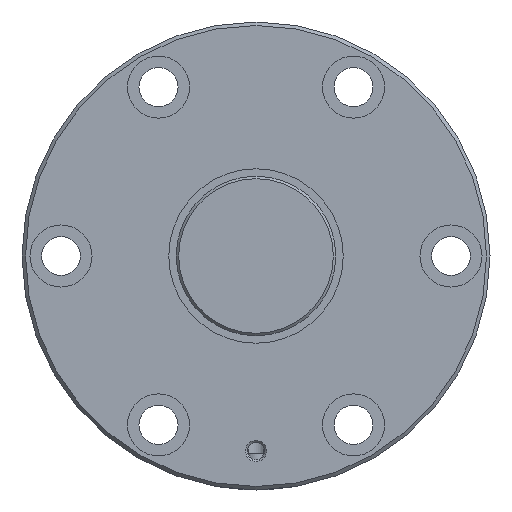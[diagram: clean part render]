
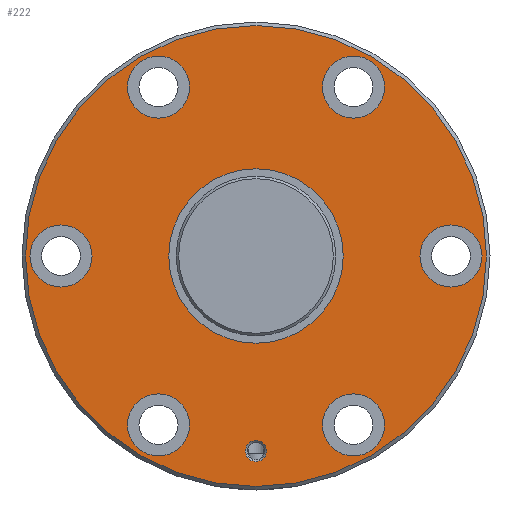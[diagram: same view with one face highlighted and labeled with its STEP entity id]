
A CAD part, left-side view. The second image highlights one B-rep face of the part: STEP entity #222.
In plain terms, the highlighted planar face has unit normal (-1, 0, 0).
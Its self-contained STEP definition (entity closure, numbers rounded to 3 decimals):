
#222 = ADVANCED_FACE( '', ( #386, #387, #388, #389, #390, #391, #392, #393, #394 ), #395, .T. );
#386 = FACE_BOUND( '', #613, .T. );
#387 = FACE_BOUND( '', #614, .T. );
#388 = FACE_BOUND( '', #615, .T. );
#389 = FACE_BOUND( '', #616, .T. );
#390 = FACE_BOUND( '', #617, .T. );
#391 = FACE_BOUND( '', #618, .T. );
#392 = FACE_BOUND( '', #619, .T. );
#393 = FACE_BOUND( '', #620, .T. );
#394 = FACE_OUTER_BOUND( '', #621, .T. );
#395 = PLANE( '', #622 );
#613 = EDGE_LOOP( '', ( #1086 ) );
#614 = EDGE_LOOP( '', ( #1087 ) );
#615 = EDGE_LOOP( '', ( #1088 ) );
#616 = EDGE_LOOP( '', ( #1089 ) );
#617 = EDGE_LOOP( '', ( #1090 ) );
#618 = EDGE_LOOP( '', ( #1091 ) );
#619 = EDGE_LOOP( '', ( #1092 ) );
#620 = EDGE_LOOP( '', ( #1093 ) );
#621 = EDGE_LOOP( '', ( #1094 ) );
#622 = AXIS2_PLACEMENT_3D( '', #1095, #1096, #1097 );
#1086 = ORIENTED_EDGE( '', *, *, #1366, .T. );
#1087 = ORIENTED_EDGE( '', *, *, #1367, .T. );
#1088 = ORIENTED_EDGE( '', *, *, #1273, .T. );
#1089 = ORIENTED_EDGE( '', *, *, #1365, .T. );
#1090 = ORIENTED_EDGE( '', *, *, #1368, .T. );
#1091 = ORIENTED_EDGE( '', *, *, #1369, .T. );
#1092 = ORIENTED_EDGE( '', *, *, #1370, .T. );
#1093 = ORIENTED_EDGE( '', *, *, #1371, .T. );
#1094 = ORIENTED_EDGE( '', *, *, #1372, .F. );
#1095 = CARTESIAN_POINT( '', ( 0., 65., 0. ) );
#1096 = DIRECTION( '', ( -1., 0., 0. ) );
#1097 = DIRECTION( '', ( 0., 0., 1. ) );
#1273 = EDGE_CURVE( '', #1443, #1443, #1444, .T. );
#1365 = EDGE_CURVE( '', #1601, #1601, #1602, .T. );
#1366 = EDGE_CURVE( '', #1603, #1603, #1604, .T. );
#1367 = EDGE_CURVE( '', #1605, #1605, #1606, .F. );
#1368 = EDGE_CURVE( '', #1607, #1607, #1608, .T. );
#1369 = EDGE_CURVE( '', #1609, #1609, #1610, .T. );
#1370 = EDGE_CURVE( '', #1611, #1611, #1612, .T. );
#1371 = EDGE_CURVE( '', #1613, #1613, #1614, .T. );
#1372 = EDGE_CURVE( '', #1615, #1615, #1616, .T. );
#1443 = VERTEX_POINT( '', #1830 );
#1444 = CIRCLE( '', #1831, 3. );
#1601 = VERTEX_POINT( '', #2508 );
#1602 = CIRCLE( '', #2509, 8.75 );
#1603 = VERTEX_POINT( '', #2510 );
#1604 = CIRCLE( '', #2511, 24.6 );
#1605 = VERTEX_POINT( '', #2512 );
#1606 = CIRCLE( '', #2513, 8.75 );
#1607 = VERTEX_POINT( '', #2514 );
#1608 = CIRCLE( '', #2515, 8.75 );
#1609 = VERTEX_POINT( '', #2516 );
#1610 = CIRCLE( '', #2517, 8.75 );
#1611 = VERTEX_POINT( '', #2518 );
#1612 = CIRCLE( '', #2519, 8.75 );
#1613 = VERTEX_POINT( '', #2520 );
#1614 = CIRCLE( '', #2521, 8.75 );
#1615 = VERTEX_POINT( '', #2522 );
#1616 = CIRCLE( '', #2523, 65. );
#1830 = CARTESIAN_POINT( '', ( 0., 0., -58. ) );
#1831 = AXIS2_PLACEMENT_3D( '', #2685, #2686, #2687 );
#2508 = CARTESIAN_POINT( '', ( 0., 27.5, 38.881 ) );
#2509 = AXIS2_PLACEMENT_3D( '', #2841, #2842, #2843 );
#2510 = CARTESIAN_POINT( '', ( 0., 0., -24.6 ) );
#2511 = AXIS2_PLACEMENT_3D( '', #2844, #2845, #2846 );
#2512 = CARTESIAN_POINT( '', ( 0., 55., 8.75 ) );
#2513 = AXIS2_PLACEMENT_3D( '', #2847, #2848, #2849 );
#2514 = CARTESIAN_POINT( '', ( 0., -27.5, -56.381 ) );
#2515 = AXIS2_PLACEMENT_3D( '', #2850, #2851, #2852 );
#2516 = CARTESIAN_POINT( '', ( 0., -27.5, 38.881 ) );
#2517 = AXIS2_PLACEMENT_3D( '', #2853, #2854, #2855 );
#2518 = CARTESIAN_POINT( '', ( 0., 27.5, -56.381 ) );
#2519 = AXIS2_PLACEMENT_3D( '', #2856, #2857, #2858 );
#2520 = CARTESIAN_POINT( '', ( 0., -55., -8.75 ) );
#2521 = AXIS2_PLACEMENT_3D( '', #2859, #2860, #2861 );
#2522 = CARTESIAN_POINT( '', ( 0., 0., -65. ) );
#2523 = AXIS2_PLACEMENT_3D( '', #2862, #2863, #2864 );
#2685 = CARTESIAN_POINT( '', ( 0., 0., -55. ) );
#2686 = DIRECTION( '', ( 1., 0., 0. ) );
#2687 = DIRECTION( '', ( 0., 0., -1. ) );
#2841 = CARTESIAN_POINT( '', ( 0., 27.5, 47.631 ) );
#2842 = DIRECTION( '', ( 1., 0., 0. ) );
#2843 = DIRECTION( '', ( 0., 0., -1. ) );
#2844 = CARTESIAN_POINT( '', ( 0., 0., 0. ) );
#2845 = DIRECTION( '', ( 1., 0., 0. ) );
#2846 = DIRECTION( '', ( 0., 0., -1. ) );
#2847 = CARTESIAN_POINT( '', ( 0., 55., 0. ) );
#2848 = DIRECTION( '', ( -1., 0., 0. ) );
#2849 = DIRECTION( '', ( 0., 0., 1. ) );
#2850 = CARTESIAN_POINT( '', ( 0., -27.5, -47.631 ) );
#2851 = DIRECTION( '', ( 1., 0., 0. ) );
#2852 = DIRECTION( '', ( 0., 0., -1. ) );
#2853 = CARTESIAN_POINT( '', ( 0., -27.5, 47.631 ) );
#2854 = DIRECTION( '', ( 1., 0., 0. ) );
#2855 = DIRECTION( '', ( 0., 0., -1. ) );
#2856 = CARTESIAN_POINT( '', ( 0., 27.5, -47.631 ) );
#2857 = DIRECTION( '', ( 1., 0., 0. ) );
#2858 = DIRECTION( '', ( 0., 0., -1. ) );
#2859 = CARTESIAN_POINT( '', ( 0., -55., 0. ) );
#2860 = DIRECTION( '', ( 1., 0., 0. ) );
#2861 = DIRECTION( '', ( 0., 0., -1. ) );
#2862 = CARTESIAN_POINT( '', ( 0., 0., 0. ) );
#2863 = DIRECTION( '', ( 1., 0., 0. ) );
#2864 = DIRECTION( '', ( 0., 0., -1. ) );
